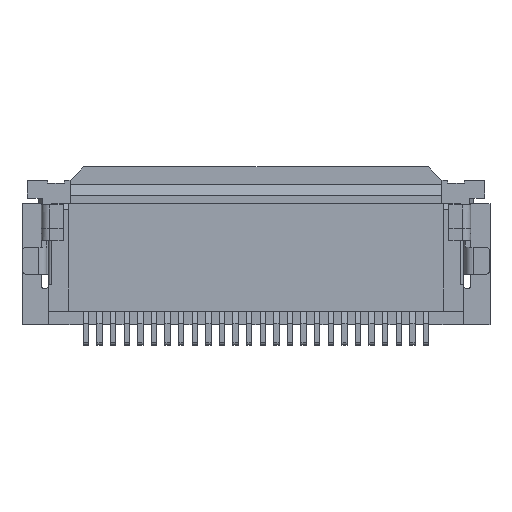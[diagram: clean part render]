
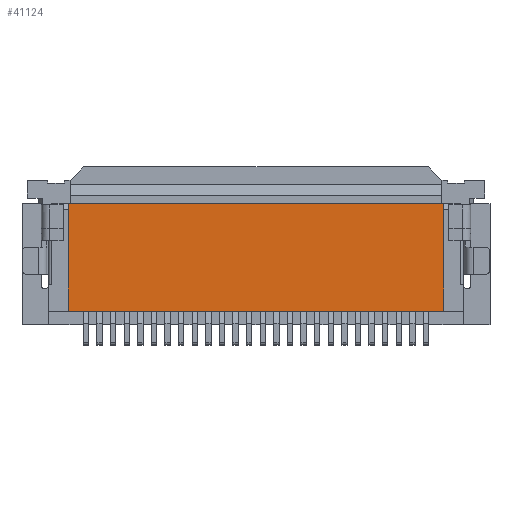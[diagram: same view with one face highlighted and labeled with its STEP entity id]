
A CAD part, front view. The second image highlights one B-rep face of the part: STEP entity #41124.
In plain terms, the highlighted planar face has unit normal (0, -1, 0).
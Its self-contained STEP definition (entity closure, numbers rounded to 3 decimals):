
#6868=DIRECTION('',(0.,0.,-1.));
#6869=VECTOR('',#6868,3.95);
#6870=CARTESIAN_POINT('',(1.7,0.,-1.35));
#6871=LINE('',#6870,#6869);
#6884=DIRECTION('',(1.,0.,0.));
#6885=VECTOR('',#6884,13.8);
#6886=CARTESIAN_POINT('',(1.7,0.,-1.35));
#6887=LINE('',#6886,#6885);
#6900=DIRECTION('',(0.,0.,1.));
#6901=VECTOR('',#6900,3.95);
#6902=CARTESIAN_POINT('',(15.5,0.,-5.3));
#6903=LINE('',#6902,#6901);
#6908=DIRECTION('',(1.,0.,0.));
#6909=VECTOR('',#6908,13.8);
#6910=CARTESIAN_POINT('',(1.7,0.,-5.3));
#6911=LINE('',#6910,#6909);
#23410=CARTESIAN_POINT('',(1.7,0.,-5.3));
#23411=VERTEX_POINT('',#23410);
#24398=CARTESIAN_POINT('',(1.7,0.,-1.35));
#24400=VERTEX_POINT('',#24398);
#27194=CARTESIAN_POINT('',(15.5,0.,-1.35));
#27195=VERTEX_POINT('',#27194);
#27196=CARTESIAN_POINT('',(15.5,0.,-5.3));
#27197=VERTEX_POINT('',#27196);
#41111=CARTESIAN_POINT('',(4.4,0.,-3.325));
#41112=DIRECTION('',(0.,1.,0.));
#41113=DIRECTION('',(0.,0.,-1.));
#41114=AXIS2_PLACEMENT_3D('',#41111,#41112,#41113);
#41115=PLANE('',#41114);
#41116=ORIENTED_EDGE('',*,*,#39343,.T.);
#41118=ORIENTED_EDGE('',*,*,#41117,.F.);
#41120=ORIENTED_EDGE('',*,*,#41119,.F.);
#41121=ORIENTED_EDGE('',*,*,#41100,.F.);
#41122=EDGE_LOOP('',(#41116,#41118,#41120,#41121));
#41123=FACE_OUTER_BOUND('',#41122,.F.);
#39343=EDGE_CURVE('',#24400,#27195,#6887,.T.);
#41100=EDGE_CURVE('',#24400,#23411,#6871,.T.);
#41117=EDGE_CURVE('',#27197,#27195,#6903,.T.);
#41119=EDGE_CURVE('',#23411,#27197,#6911,.T.);
#41124=ADVANCED_FACE('',(#41123),#41115,.F.);
